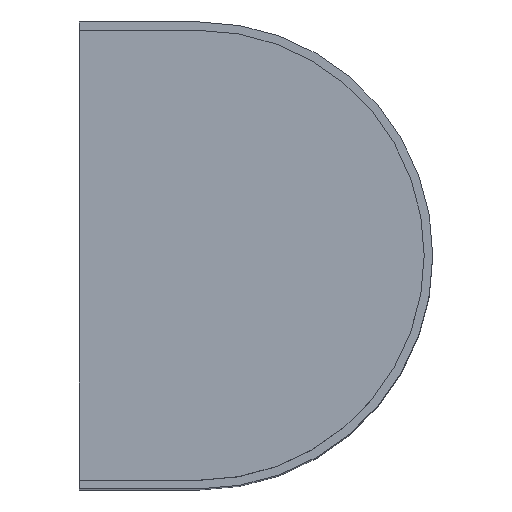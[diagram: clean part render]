
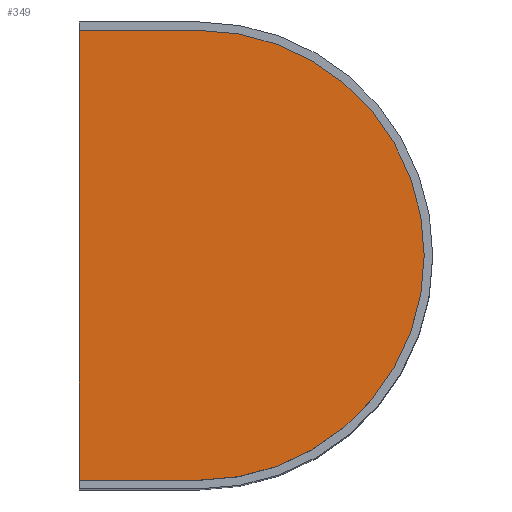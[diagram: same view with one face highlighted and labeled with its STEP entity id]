
A CAD part, top view. The second image highlights one B-rep face of the part: STEP entity #349.
In plain terms, the highlighted planar face has unit normal (0, 0, 1).
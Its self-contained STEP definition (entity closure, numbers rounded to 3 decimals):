
#18 = DIRECTION ( 'NONE',  ( 1., 0., 0. ) ) ;
#19 = DIRECTION ( 'NONE',  ( 0., 0., 1. ) ) ;
#20 = CARTESIAN_POINT ( 'NONE',  ( -68., 0., 116.25 ) ) ;
#37 = DIRECTION ( 'NONE',  ( 0., -1., 0. ) ) ;
#51 = CARTESIAN_POINT ( 'NONE',  ( -68., -65.5, 116.25 ) ) ;
#52 = CARTESIAN_POINT ( 'NONE',  ( -103., 65.5, 116.25 ) ) ;
#55 = DIRECTION ( 'NONE',  ( 1., 0., 0. ) ) ;
#58 = CARTESIAN_POINT ( 'NONE',  ( -103., -65.5, 116.25 ) ) ;
#65 = CARTESIAN_POINT ( 'NONE',  ( -103., 65.5, 116.25 ) ) ;
#73 = CARTESIAN_POINT ( 'NONE',  ( -103., -65.5, 116.25 ) ) ;
#87 = CARTESIAN_POINT ( 'NONE',  ( -68., 65.5, 116.25 ) ) ;
#107 = FACE_OUTER_BOUND ( 'NONE', #287, .T. ) ;
#126 = VECTOR ( 'NONE', #446, 1000. ) ;
#129 = LINE ( 'NONE', #452, #126 ) ;
#165 = CIRCLE ( 'NONE', #300, 65.5 ) ;
#166 = VECTOR ( 'NONE', #55, 1000. ) ;
#179 = VECTOR ( 'NONE', #37, 1000. ) ;
#180 = LINE ( 'NONE', #73, #166 ) ;
#183 = LINE ( 'NONE', #52, #179 ) ;
#186 = VERTEX_POINT ( 'NONE', #87 ) ;
#195 = VERTEX_POINT ( 'NONE', #51 ) ;
#200 = VERTEX_POINT ( 'NONE', #65 ) ;
#206 = VERTEX_POINT ( 'NONE', #58 ) ;
#245 = ORIENTED_EDGE ( 'NONE', *, *, #333, .T. ) ;
#246 = ORIENTED_EDGE ( 'NONE', *, *, #304, .T. ) ;
#247 = ORIENTED_EDGE ( 'NONE', *, *, #310, .T. ) ;
#248 = ORIENTED_EDGE ( 'NONE', *, *, #312, .T. ) ;
#287 = EDGE_LOOP ( 'NONE', ( #245, #246, #247, #248 ) ) ;
#300 = AXIS2_PLACEMENT_3D ( 'NONE', #20, #19, #18 ) ;
#304 = EDGE_CURVE ( 'NONE', #200, #206, #183, .T. ) ;
#310 = EDGE_CURVE ( 'NONE', #206, #195, #180, .T. ) ;
#312 = EDGE_CURVE ( 'NONE', #195, #186, #165, .T. ) ;
#333 = EDGE_CURVE ( 'NONE', #186, #200, #129, .T. ) ;
#349 = ADVANCED_FACE ( 'NONE', ( #107 ), #418, .T. ) ;
#363 = AXIS2_PLACEMENT_3D ( 'NONE', #410, #411, #404 ) ;
#404 = DIRECTION ( 'NONE',  ( 1., 0., 0. ) ) ;
#410 = CARTESIAN_POINT ( 'NONE',  ( -68., 0., 116.25 ) ) ;
#411 = DIRECTION ( 'NONE',  ( 0., 0., 1. ) ) ;
#418 = PLANE ( 'NONE',  #363 ) ;
#446 = DIRECTION ( 'NONE',  ( -1., 0., 0. ) ) ;
#452 = CARTESIAN_POINT ( 'NONE',  ( -68., 65.5, 116.25 ) ) ;
